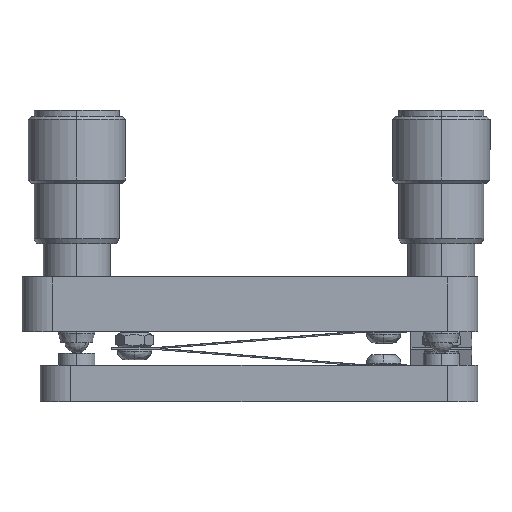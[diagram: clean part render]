
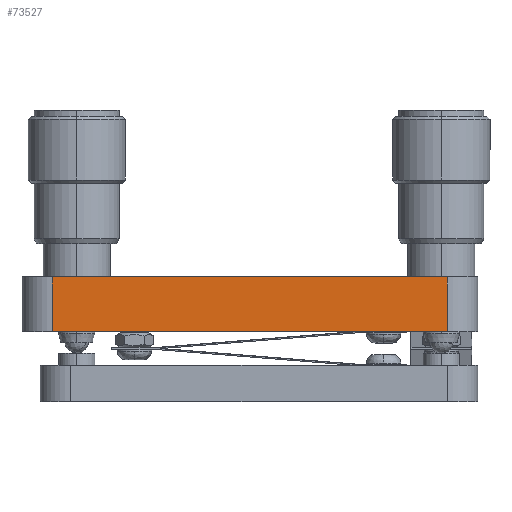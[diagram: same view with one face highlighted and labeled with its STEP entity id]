
A CAD part, left-side view. The second image highlights one B-rep face of the part: STEP entity #73527.
In plain terms, the highlighted planar face has unit normal (-1, 0, 0).
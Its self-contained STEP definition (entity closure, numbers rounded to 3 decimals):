
#42282 = DIRECTION ( 'NONE',  ( 0., -1., 0. ) ) ;
#42283 = VECTOR ( 'NONE', #42282, 39.37 ) ;
#42284 = CARTESIAN_POINT ( 'NONE',  ( 3., 75., 0. ) ) ;
#42285 = LINE ( 'NONE', #42284, #42283 ) ;
#42286 = CARTESIAN_POINT ( 'NONE',  ( 3., 5., 0. ) ) ;
#42346 = CARTESIAN_POINT ( 'NONE',  ( 3., 70., 0. ) ) ;
#43040 = CARTESIAN_POINT ( 'NONE',  ( 3., 5., 9. ) ) ;
#43094 = DIRECTION ( 'NONE',  ( 0., 0., -1. ) ) ;
#43095 = VECTOR ( 'NONE', #43094, 39.37 ) ;
#43096 = CARTESIAN_POINT ( 'NONE',  ( 3., 5., 9. ) ) ;
#43097 = LINE ( 'NONE', #43096, #43095 ) ;
#43122 = DIRECTION ( 'NONE',  ( 0., -1., 0. ) ) ;
#43123 = DIRECTION ( 'NONE',  ( -1., 0., 0. ) ) ;
#43124 = CARTESIAN_POINT ( 'NONE',  ( 3., 75., 9. ) ) ;
#43125 = AXIS2_PLACEMENT_3D ( 'NONE', #43124, #43123, #43122 ) ;
#43126 = PLANE ( 'NONE',  #43125 ) ;
#43127 = FACE_OUTER_BOUND ( 'NONE', #73521, .T. ) ;
#43172 = DIRECTION ( 'NONE',  ( 0., 1., 0. ) ) ;
#43173 = VECTOR ( 'NONE', #43172, 39.37 ) ;
#43174 = CARTESIAN_POINT ( 'NONE',  ( 3., 37.5, 9. ) ) ;
#43175 = LINE ( 'NONE', #43174, #43173 ) ;
#43181 = CARTESIAN_POINT ( 'NONE',  ( 3., 70., 9. ) ) ;
#43182 = DIRECTION ( 'NONE',  ( 0., 0., 1. ) ) ;
#43183 = VECTOR ( 'NONE', #43182, 39.37 ) ;
#43184 = CARTESIAN_POINT ( 'NONE',  ( 3., 70., 9. ) ) ;
#43185 = LINE ( 'NONE', #43184, #43183 ) ;
#72995 = VERTEX_POINT ( 'NONE', #42286 ) ;
#72997 = EDGE_CURVE ( 'NONE', #73042, #72995, #42285, .T. ) ;
#73042 = VERTEX_POINT ( 'NONE', #42346 ) ;
#73463 = VERTEX_POINT ( 'NONE', #43040 ) ;
#73507 = ORIENTED_EDGE ( 'NONE', *, *, #73528, .F. ) ;
#73508 = EDGE_CURVE ( 'NONE', #73463, #72995, #43097, .T. ) ;
#73514 = ORIENTED_EDGE ( 'NONE', *, *, #72997, .T. ) ;
#73521 = EDGE_LOOP ( 'NONE', ( #73507, #73514, #73533, #73534 ) ) ;
#73527 = ADVANCED_FACE ( 'NONE', ( #43127 ), #43126, .T. ) ;
#73528 = EDGE_CURVE ( 'NONE', #73042, #73529, #43185, .T. ) ;
#73529 = VERTEX_POINT ( 'NONE', #43181 ) ;
#73533 = ORIENTED_EDGE ( 'NONE', *, *, #73508, .F. ) ;
#73534 = ORIENTED_EDGE ( 'NONE', *, *, #73535, .T. ) ;
#73535 = EDGE_CURVE ( 'NONE', #73463, #73529, #43175, .T. ) ;
